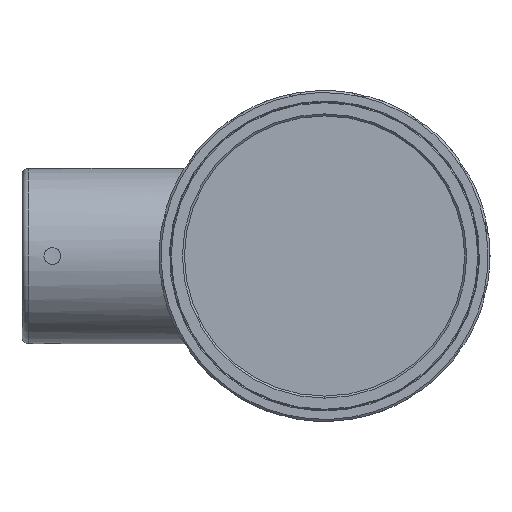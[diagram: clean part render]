
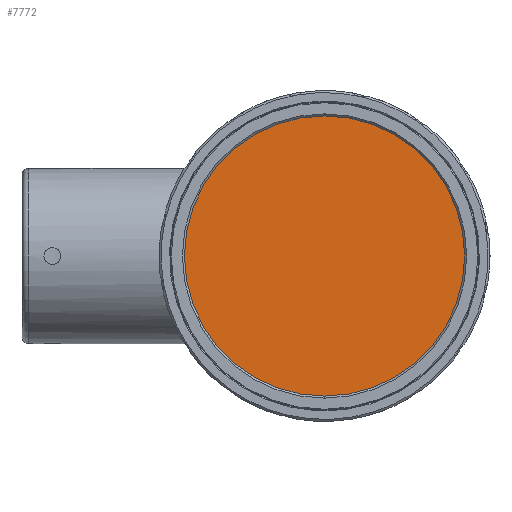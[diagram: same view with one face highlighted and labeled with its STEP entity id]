
A CAD part, left-side view. The second image highlights one B-rep face of the part: STEP entity #7772.
In plain terms, the highlighted planar face has unit normal (-1, 0, 0).
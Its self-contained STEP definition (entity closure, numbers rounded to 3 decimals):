
#241 = DIRECTION ( 'NONE',  ( 1., 0., 0. ) ) ;
#404 = ORIENTED_EDGE ( 'NONE', *, *, #3203, .F. ) ;
#1212 = DIRECTION ( 'NONE',  ( 0., 0., 1. ) ) ;
#1502 = AXIS2_PLACEMENT_3D ( 'NONE', #9961, #11331, #1212 ) ;
#2816 = AXIS2_PLACEMENT_3D ( 'NONE', #7021, #4480, #9862 ) ;
#3063 = EDGE_CURVE ( 'NONE', #8273, #13567, #4754, .T. ) ;
#3203 = EDGE_CURVE ( 'NONE', #13567, #8273, #4966, .T. ) ;
#4480 = DIRECTION ( 'NONE',  ( -1., 0., 0. ) ) ;
#4754 = CIRCLE ( 'NONE', #1502, 20.75 ) ;
#4966 = CIRCLE ( 'NONE', #11658, 20.75 ) ;
#6681 = CARTESIAN_POINT ( 'NONE',  ( 1.762, 0., 0. ) ) ;
#6798 = FACE_OUTER_BOUND ( 'NONE', #12823, .T. ) ;
#7021 = CARTESIAN_POINT ( 'NONE',  ( 1.762, 0., 0. ) ) ;
#7772 = ADVANCED_FACE ( 'NONE', ( #6798 ), #10833, .T. ) ;
#8273 = VERTEX_POINT ( 'NONE', #8744 ) ;
#8721 = ORIENTED_EDGE ( 'NONE', *, *, #3063, .F. ) ;
#8744 = CARTESIAN_POINT ( 'NONE',  ( 1.762, 0., -20.75 ) ) ;
#9862 = DIRECTION ( 'NONE',  ( 0., 0., 1. ) ) ;
#9961 = CARTESIAN_POINT ( 'NONE',  ( 1.762, 0., 0. ) ) ;
#10833 = PLANE ( 'NONE',  #2816 ) ;
#11331 = DIRECTION ( 'NONE',  ( 1., 0., 0. ) ) ;
#11658 = AXIS2_PLACEMENT_3D ( 'NONE', #6681, #241, #11748 ) ;
#11748 = DIRECTION ( 'NONE',  ( 0., 0., 1. ) ) ;
#12823 = EDGE_LOOP ( 'NONE', ( #404, #8721 ) ) ;
#13567 = VERTEX_POINT ( 'NONE', #14522 ) ;
#14522 = CARTESIAN_POINT ( 'NONE',  ( 1.762, 0., 20.75 ) ) ;
